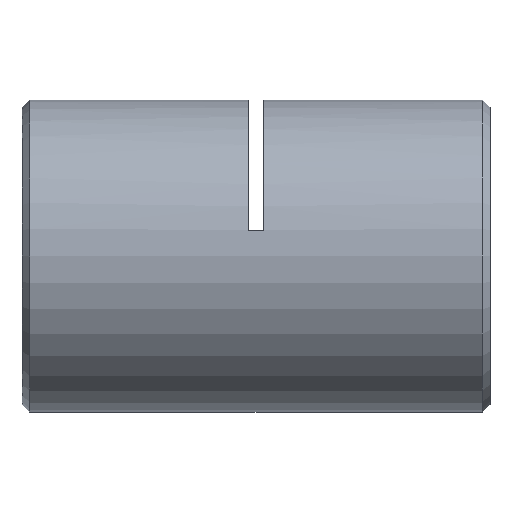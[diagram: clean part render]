
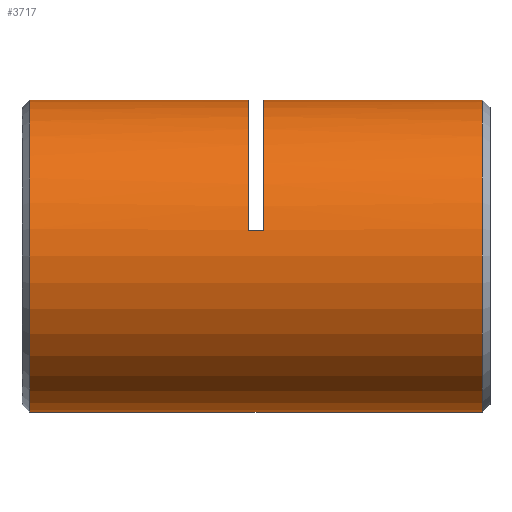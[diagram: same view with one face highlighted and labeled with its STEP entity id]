
A CAD part, left-side view. The second image highlights one B-rep face of the part: STEP entity #3717.
In plain terms, the highlighted cylindrical face has radius 10 mm (diameter 20 mm), a partial arc.
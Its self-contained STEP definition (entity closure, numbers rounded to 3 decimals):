
#21 = CIRCLE ( 'NONE', #1849, 10. ) ;
#32 = LINE ( 'NONE', #4566, #1031 ) ;
#54 = EDGE_CURVE ( 'NONE', #385, #4109, #3731, .T. ) ;
#62 = DIRECTION ( 'NONE',  ( 0., 1., 0. ) ) ;
#161 = EDGE_CURVE ( 'NONE', #5347, #2984, #3792, .T. ) ;
#385 = VERTEX_POINT ( 'NONE', #3444 ) ;
#400 = VERTEX_POINT ( 'NONE', #4688 ) ;
#625 = ORIENTED_EDGE ( 'NONE', *, *, #5053, .T. ) ;
#653 = VECTOR ( 'NONE', #1759, 1000. ) ;
#759 = ORIENTED_EDGE ( 'NONE', *, *, #2878, .T. ) ;
#764 = CARTESIAN_POINT ( 'NONE',  ( 0., 14.75, 10. ) ) ;
#809 = VECTOR ( 'NONE', #5106, 1000. ) ;
#981 = CARTESIAN_POINT ( 'NONE',  ( 0., 15.75, 10. ) ) ;
#1031 = VECTOR ( 'NONE', #3203, 1000. ) ;
#1156 = ORIENTED_EDGE ( 'NONE', *, *, #161, .T. ) ;
#1196 = VERTEX_POINT ( 'NONE', #5670 ) ;
#1225 = CARTESIAN_POINT ( 'NONE',  ( 0., 29.75, 0. ) ) ;
#1500 = CARTESIAN_POINT ( 'NONE',  ( 0., 14.75, 0. ) ) ;
#1577 = DIRECTION ( 'NONE',  ( 0., 1., 0. ) ) ;
#1638 = AXIS2_PLACEMENT_3D ( 'NONE', #1225, #1678, #5222 ) ;
#1678 = DIRECTION ( 'NONE',  ( 0., -1., 0. ) ) ;
#1711 = LINE ( 'NONE', #4471, #653 ) ;
#1720 = CARTESIAN_POINT ( 'NONE',  ( 0., 0., 0. ) ) ;
#1759 = DIRECTION ( 'NONE',  ( 0., 1., 0. ) ) ;
#1849 = AXIS2_PLACEMENT_3D ( 'NONE', #2737, #62, #3229 ) ;
#1852 = CARTESIAN_POINT ( 'NONE',  ( 0., 29.75, -10. ) ) ;
#1888 = CARTESIAN_POINT ( 'NONE',  ( 0., 0., 10. ) ) ;
#1952 = ORIENTED_EDGE ( 'NONE', *, *, #54, .T. ) ;
#2009 = LINE ( 'NONE', #4208, #809 ) ;
#2504 = VERTEX_POINT ( 'NONE', #4479 ) ;
#2568 = DIRECTION ( 'NONE',  ( 0., 1., 0. ) ) ;
#2737 = CARTESIAN_POINT ( 'NONE',  ( 0., 0.75, 0. ) ) ;
#2763 = EDGE_CURVE ( 'NONE', #1196, #5366, #32, .T. ) ;
#2788 = CYLINDRICAL_SURFACE ( 'NONE', #4026, 10. ) ;
#2842 = ORIENTED_EDGE ( 'NONE', *, *, #3344, .T. ) ;
#2864 = DIRECTION ( 'NONE',  ( 0., 0., 1. ) ) ;
#2873 = ORIENTED_EDGE ( 'NONE', *, *, #4003, .F. ) ;
#2878 = EDGE_CURVE ( 'NONE', #4109, #2504, #2009, .T. ) ;
#2935 = CIRCLE ( 'NONE', #5585, 10. ) ;
#2984 = VERTEX_POINT ( 'NONE', #764 ) ;
#3013 = EDGE_LOOP ( 'NONE', ( #4151, #625, #1156, #2873, #2842, #1952, #759, #4664 ) ) ;
#3203 = DIRECTION ( 'NONE',  ( 0., 1., 0. ) ) ;
#3205 = EDGE_CURVE ( 'NONE', #2504, #5366, #3293, .T. ) ;
#3229 = DIRECTION ( 'NONE',  ( 0., 0., 1. ) ) ;
#3247 = AXIS2_PLACEMENT_3D ( 'NONE', #4193, #1577, #5214 ) ;
#3293 = CIRCLE ( 'NONE', #1638, 10. ) ;
#3344 = EDGE_CURVE ( 'NONE', #400, #385, #1711, .T. ) ;
#3444 = CARTESIAN_POINT ( 'NONE',  ( -9.86, 15.75, 1.667 ) ) ;
#3706 = DIRECTION ( 'NONE',  ( 0., 1., 0. ) ) ;
#3717 = ADVANCED_FACE ( 'NONE', ( #4653 ), #2788, .T. ) ;
#3731 = CIRCLE ( 'NONE', #3247, 10. ) ;
#3792 = LINE ( 'NONE', #1888, #5550 ) ;
#4003 = EDGE_CURVE ( 'NONE', #400, #2984, #2935, .T. ) ;
#4026 = AXIS2_PLACEMENT_3D ( 'NONE', #1720, #2568, #5724 ) ;
#4109 = VERTEX_POINT ( 'NONE', #981 ) ;
#4151 = ORIENTED_EDGE ( 'NONE', *, *, #2763, .F. ) ;
#4193 = CARTESIAN_POINT ( 'NONE',  ( 0., 15.75, 0. ) ) ;
#4208 = CARTESIAN_POINT ( 'NONE',  ( 0., 0., 10. ) ) ;
#4471 = CARTESIAN_POINT ( 'NONE',  ( -9.86, 15.25, 1.667 ) ) ;
#4479 = CARTESIAN_POINT ( 'NONE',  ( 0., 29.75, 10. ) ) ;
#4566 = CARTESIAN_POINT ( 'NONE',  ( 0., 0., -10. ) ) ;
#4621 = DIRECTION ( 'NONE',  ( 0., 1., 0. ) ) ;
#4653 = FACE_OUTER_BOUND ( 'NONE', #3013, .T. ) ;
#4664 = ORIENTED_EDGE ( 'NONE', *, *, #3205, .T. ) ;
#4688 = CARTESIAN_POINT ( 'NONE',  ( -9.86, 14.75, 1.667 ) ) ;
#5053 = EDGE_CURVE ( 'NONE', #1196, #5347, #21, .T. ) ;
#5106 = DIRECTION ( 'NONE',  ( 0., 1., 0. ) ) ;
#5214 = DIRECTION ( 'NONE',  ( 0., 0., 1. ) ) ;
#5222 = DIRECTION ( 'NONE',  ( 0., 0., -1. ) ) ;
#5347 = VERTEX_POINT ( 'NONE', #5556 ) ;
#5366 = VERTEX_POINT ( 'NONE', #1852 ) ;
#5550 = VECTOR ( 'NONE', #3706, 1000. ) ;
#5556 = CARTESIAN_POINT ( 'NONE',  ( 0., 0.75, 10. ) ) ;
#5585 = AXIS2_PLACEMENT_3D ( 'NONE', #1500, #4621, #2864 ) ;
#5670 = CARTESIAN_POINT ( 'NONE',  ( 0., 0.75, -10. ) ) ;
#5724 = DIRECTION ( 'NONE',  ( 0., 0., 1. ) ) ;
